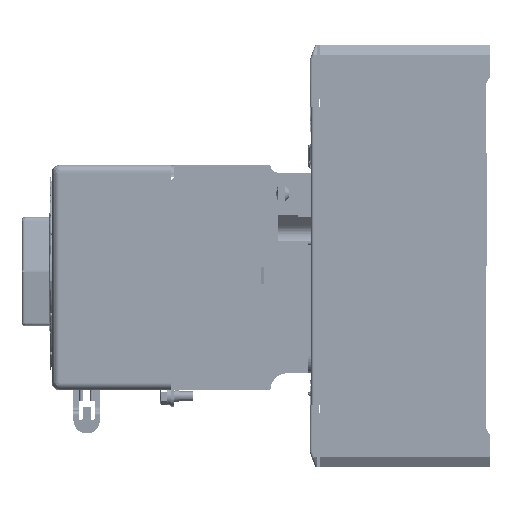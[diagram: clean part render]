
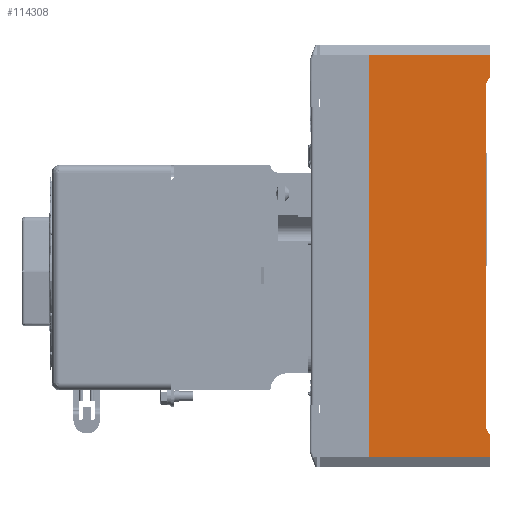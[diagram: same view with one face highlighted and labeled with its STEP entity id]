
A CAD part, left-side view. The second image highlights one B-rep face of the part: STEP entity #114308.
In plain terms, the highlighted planar face has unit normal (-1, 0, 0).
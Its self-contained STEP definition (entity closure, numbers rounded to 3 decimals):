
#3166 = FACE_OUTER_BOUND ( 'NONE', #160269, .T. ) ;
#20509 = VECTOR ( 'NONE', #57594, 1000. ) ;
#20512 = LINE ( 'NONE', #57591, #20509 ) ;
#26885 = PLANE ( 'NONE',  #230805 ) ;
#26924 = CARTESIAN_POINT ( 'NONE',  ( -151.661, -18.993, -171.37 ) ) ;
#26928 = DIRECTION ( 'NONE',  ( -1., 0., 0. ) ) ;
#26931 = DIRECTION ( 'NONE',  ( 0., 0., 1. ) ) ;
#52710 = CARTESIAN_POINT ( 'NONE',  ( -151.661, -18.993, -166.37 ) ) ;
#52735 = CARTESIAN_POINT ( 'NONE',  ( -151.661, 45.457, -166.37 ) ) ;
#52752 = CARTESIAN_POINT ( 'NONE',  ( -151.661, -18.993, -154.582 ) ) ;
#52755 = CARTESIAN_POINT ( 'NONE',  ( -151.661, -17.043, -151.204 ) ) ;
#52757 = CARTESIAN_POINT ( 'NONE',  ( -151.661, -17.043, 32.233 ) ) ;
#52759 = CARTESIAN_POINT ( 'NONE',  ( -151.661, -18.993, 35.611 ) ) ;
#52762 = CARTESIAN_POINT ( 'NONE',  ( -151.661, -18.993, 47.4 ) ) ;
#52764 = CARTESIAN_POINT ( 'NONE',  ( -151.661, 45.457, 47.4 ) ) ;
#57591 = CARTESIAN_POINT ( 'NONE',  ( -151.661, -18.993, -171.37 ) ) ;
#57594 = DIRECTION ( 'NONE',  ( 0., 0., 1. ) ) ;
#89627 = LINE ( 'NONE', #114804, #89663 ) ;
#89663 = VECTOR ( 'NONE', #114927, 1000. ) ;
#89741 = LINE ( 'NONE', #126909, #89756 ) ;
#89756 = VECTOR ( 'NONE', #126945, 1000. ) ;
#89780 = LINE ( 'NONE', #126955, #89788 ) ;
#89788 = VECTOR ( 'NONE', #126956, 1000. ) ;
#89821 = LINE ( 'NONE', #127018, #89828 ) ;
#89828 = VECTOR ( 'NONE', #127019, 1000. ) ;
#89940 = LINE ( 'NONE', #138923, #89949 ) ;
#89949 = VECTOR ( 'NONE', #138925, 1000. ) ;
#89966 = LINE ( 'NONE', #139238, #89973 ) ;
#89970 = LINE ( 'NONE', #139243, #89980 ) ;
#89973 = VECTOR ( 'NONE', #139241, 1000. ) ;
#89980 = VECTOR ( 'NONE', #139246, 1000. ) ;
#95266 = EDGE_CURVE ( 'NONE', #130541, #130544, #20512, .T. ) ;
#96224 = EDGE_CURVE ( 'NONE', #130535, #130537, #89627, .T. ) ;
#96334 = EDGE_CURVE ( 'NONE', #130539, #130541, #89741, .T. ) ;
#96345 = EDGE_CURVE ( 'NONE', #130544, #130546, #89780, .T. ) ;
#96366 = EDGE_CURVE ( 'NONE', #130500, #130535, #89821, .T. ) ;
#96477 = EDGE_CURVE ( 'NONE', #130546, #130522, #89940, .T. ) ;
#96500 = EDGE_CURVE ( 'NONE', #130522, #130500, #89966, .T. ) ;
#96502 = EDGE_CURVE ( 'NONE', #130537, #130539, #89970, .T. ) ;
#114308 = ADVANCED_FACE ( 'NONE', ( #3166 ), #26885, .T. ) ;
#114804 = CARTESIAN_POINT ( 'NONE',  ( -151.661, -18.993, -154.582 ) ) ;
#114927 = DIRECTION ( 'NONE',  ( 0., 0.5, 0.866 ) ) ;
#126909 = CARTESIAN_POINT ( 'NONE',  ( -151.661, -17.043, 32.233 ) ) ;
#126945 = DIRECTION ( 'NONE',  ( 0., -0.5, 0.866 ) ) ;
#126955 = CARTESIAN_POINT ( 'NONE',  ( -151.661, -18.993, 47.4 ) ) ;
#126956 = DIRECTION ( 'NONE',  ( 0., 1., 0. ) ) ;
#127018 = CARTESIAN_POINT ( 'NONE',  ( -151.661, -18.993, -171.37 ) ) ;
#127019 = DIRECTION ( 'NONE',  ( 0., 0., 1. ) ) ;
#130500 = VERTEX_POINT ( 'NONE', #52710 ) ;
#130522 = VERTEX_POINT ( 'NONE', #52735 ) ;
#130535 = VERTEX_POINT ( 'NONE', #52752 ) ;
#130537 = VERTEX_POINT ( 'NONE', #52755 ) ;
#130539 = VERTEX_POINT ( 'NONE', #52757 ) ;
#130541 = VERTEX_POINT ( 'NONE', #52759 ) ;
#130544 = VERTEX_POINT ( 'NONE', #52762 ) ;
#130546 = VERTEX_POINT ( 'NONE', #52764 ) ;
#138923 = CARTESIAN_POINT ( 'NONE',  ( -151.661, 45.457, -171.37 ) ) ;
#138925 = DIRECTION ( 'NONE',  ( 0., 0., -1. ) ) ;
#139238 = CARTESIAN_POINT ( 'NONE',  ( -151.661, -18.993, -166.37 ) ) ;
#139241 = DIRECTION ( 'NONE',  ( 0., -1., 0. ) ) ;
#139243 = CARTESIAN_POINT ( 'NONE',  ( -151.661, -17.043, -171.37 ) ) ;
#139246 = DIRECTION ( 'NONE',  ( 0., 0., 1. ) ) ;
#160269 = EDGE_LOOP ( 'NONE', ( #225143, #225145, #225148, #225152, #225154, #225156, #225158, #225161 ) ) ;
#225143 = ORIENTED_EDGE ( 'NONE', *, *, #96500, .T. ) ;
#225145 = ORIENTED_EDGE ( 'NONE', *, *, #96366, .T. ) ;
#225148 = ORIENTED_EDGE ( 'NONE', *, *, #96224, .T. ) ;
#225152 = ORIENTED_EDGE ( 'NONE', *, *, #96502, .T. ) ;
#225154 = ORIENTED_EDGE ( 'NONE', *, *, #96334, .T. ) ;
#225156 = ORIENTED_EDGE ( 'NONE', *, *, #95266, .T. ) ;
#225158 = ORIENTED_EDGE ( 'NONE', *, *, #96345, .T. ) ;
#225161 = ORIENTED_EDGE ( 'NONE', *, *, #96477, .T. ) ;
#230805 = AXIS2_PLACEMENT_3D ( 'NONE', #26924, #26928, #26931 ) ;
